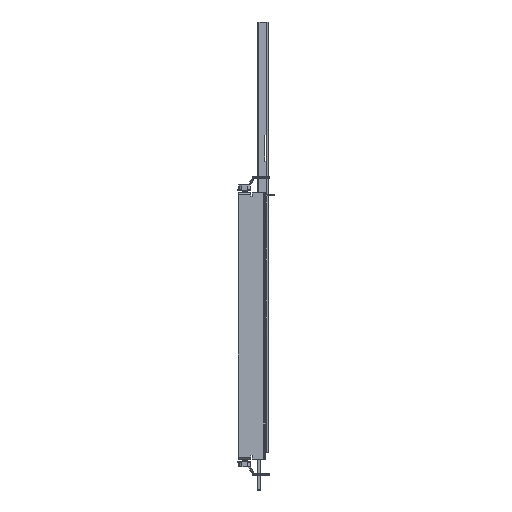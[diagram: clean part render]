
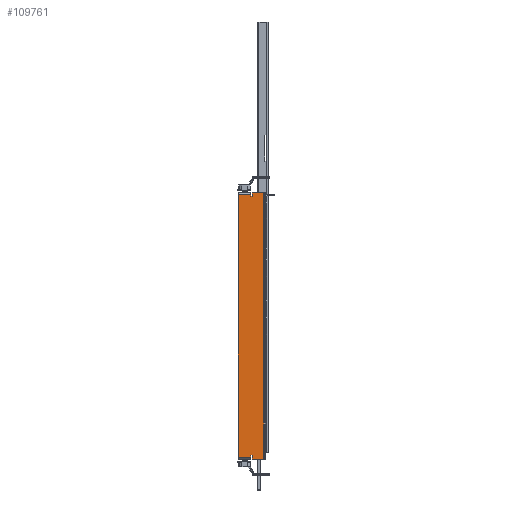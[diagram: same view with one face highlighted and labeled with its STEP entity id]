
A CAD part, left-side view. The second image highlights one B-rep face of the part: STEP entity #109761.
In plain terms, the highlighted planar face has unit normal (-1, 0, 0) as drawn and (0, 0, 1) by its records, which use the part's own axes.
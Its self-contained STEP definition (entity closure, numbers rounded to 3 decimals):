
#108001=CARTESIAN_POINT(' ',(150.,2.1,0.));
#108002=VERTEX_POINT(' ',#108001);
#108016=CARTESIAN_POINT(' ',(150.,2.1,0.));
#108021=DIRECTION(' ',(-1.,0.,0.));
#108026=VECTOR(' ',#108021,1.);
#108031=LINE('',#108016,#108026);
#108036=CARTESIAN_POINT(' ',(-150.,2.1,0.));
#108037=VERTEX_POINT(' ',#108036);
#108041=EDGE_CURVE(' ',#108002,#108037,#108031,.T.);
#108186=CARTESIAN_POINT(' ',(150.,15.,0.));
#108187=VERTEX_POINT(' ',#108186);
#108201=CARTESIAN_POINT(' ',(150.,15.,0.));
#108206=DIRECTION(' ',(0.,-1.,0.));
#108211=VECTOR(' ',#108206,1.);
#108216=LINE('',#108201,#108211);
#108221=EDGE_CURVE(' ',#108187,#108002,#108216,.T.);
#108761=CARTESIAN_POINT(' ',(-150.,15.,0.));
#108766=DIRECTION(' ',(0.,-1.,0.));
#108771=VECTOR(' ',#108766,1.);
#108776=LINE('',#108761,#108771);
#108781=CARTESIAN_POINT(' ',(-150.,15.,0.));
#108782=VERTEX_POINT(' ',#108781);
#108786=EDGE_CURVE(' ',#108782,#108037,#108776,.T.);
#109401=DIRECTION(' ',(-0.,0.,1.));
#109406=CARTESIAN_POINT(' ',(-150.,2.1,0.));
#109411=DIRECTION(' ',(1.,-0.,0.));
#109416=AXIS2_PLACEMENT_3D(' ',#109406,#109401,#109411);
#109421=PLANE('NONE',#109416);
#109426=CARTESIAN_POINT(' ',(147.9,30.5,0.));
#109431=DIRECTION(' ',(0.,-1.,0.));
#109436=VECTOR(' ',#109431,1.);
#109441=LINE('',#109426,#109436);
#109446=CARTESIAN_POINT(' ',(147.9,30.5,0.));
#109447=VERTEX_POINT(' ',#109446);
#109451=CARTESIAN_POINT(' ',(147.9,16.5,0.));
#109452=VERTEX_POINT(' ',#109451);
#109456=EDGE_CURVE(' ',#109447,#109452,#109441,.T.);
#109461=ORIENTED_EDGE(' ',*,*,#109456,.F.);
#109466=CARTESIAN_POINT(' ',(147.9,30.5,0.));
#109471=DIRECTION(' ',(-1.,0.,0.));
#109476=VECTOR(' ',#109471,1.);
#109481=LINE('',#109466,#109476);
#109486=CARTESIAN_POINT(' ',(-147.9,30.5,0.));
#109487=VERTEX_POINT(' ',#109486);
#109491=EDGE_CURVE(' ',#109447,#109487,#109481,.T.);
#109496=ORIENTED_EDGE(' ',*,*,#109491,.T.);
#109501=CARTESIAN_POINT(' ',(-147.9,16.5,0.));
#109506=DIRECTION(' ',(0.,1.,0.));
#109511=VECTOR(' ',#109506,1.);
#109516=LINE('',#109501,#109511);
#109521=CARTESIAN_POINT(' ',(-147.9,16.5,0.));
#109522=VERTEX_POINT(' ',#109521);
#109526=EDGE_CURVE(' ',#109522,#109487,#109516,.T.);
#109531=ORIENTED_EDGE(' ',*,*,#109526,.F.);
#109536=CARTESIAN_POINT(' ',(-146.,16.5,0.));
#109541=DIRECTION(' ',(-1.,0.,0.));
#109546=VECTOR(' ',#109541,1.);
#109551=LINE('',#109536,#109546);
#109556=CARTESIAN_POINT(' ',(-146.,16.5,0.));
#109557=VERTEX_POINT(' ',#109556);
#109561=EDGE_CURVE(' ',#109557,#109522,#109551,.T.);
#109566=ORIENTED_EDGE(' ',*,*,#109561,.F.);
#109571=CARTESIAN_POINT(' ',(-146.,15.,0.));
#109576=DIRECTION(' ',(0.,1.,0.));
#109581=VECTOR(' ',#109576,1.);
#109586=LINE('',#109571,#109581);
#109591=CARTESIAN_POINT(' ',(-146.,15.,0.));
#109592=VERTEX_POINT(' ',#109591);
#109596=EDGE_CURVE(' ',#109592,#109557,#109586,.T.);
#109601=ORIENTED_EDGE(' ',*,*,#109596,.F.);
#109606=CARTESIAN_POINT(' ',(-150.,15.,0.));
#109611=DIRECTION(' ',(1.,0.,0.));
#109616=VECTOR(' ',#109611,1.);
#109621=LINE('',#109606,#109616);
#109626=EDGE_CURVE(' ',#108782,#109592,#109621,.T.);
#109631=ORIENTED_EDGE(' ',*,*,#109626,.F.);
#109636=ORIENTED_EDGE(' ',*,*,#108786,.T.);
#109641=ORIENTED_EDGE(' ',*,*,#108041,.F.);
#109646=ORIENTED_EDGE(' ',*,*,#108221,.F.);
#109651=CARTESIAN_POINT(' ',(150.,15.,0.));
#109656=DIRECTION(' ',(-1.,0.,0.));
#109661=VECTOR(' ',#109656,1.);
#109666=LINE('',#109651,#109661);
#109671=CARTESIAN_POINT(' ',(146.,15.,0.));
#109672=VERTEX_POINT(' ',#109671);
#109676=EDGE_CURVE(' ',#108187,#109672,#109666,.T.);
#109681=ORIENTED_EDGE(' ',*,*,#109676,.T.);
#109686=CARTESIAN_POINT(' ',(146.,15.,0.));
#109691=DIRECTION(' ',(0.,1.,0.));
#109696=VECTOR(' ',#109691,1.);
#109701=LINE('',#109686,#109696);
#109706=CARTESIAN_POINT(' ',(146.,16.5,0.));
#109707=VERTEX_POINT(' ',#109706);
#109711=EDGE_CURVE(' ',#109672,#109707,#109701,.T.);
#109716=ORIENTED_EDGE(' ',*,*,#109711,.T.);
#109721=CARTESIAN_POINT(' ',(146.,16.5,0.));
#109726=DIRECTION(' ',(1.,0.,0.));
#109731=VECTOR(' ',#109726,1.);
#109736=LINE('',#109721,#109731);
#109741=EDGE_CURVE(' ',#109707,#109452,#109736,.T.);
#109746=ORIENTED_EDGE(' ',*,*,#109741,.T.);
#109751=EDGE_LOOP(' ',(#109461,#109496,#109531,#109566,#109601,#109631,#109636,#109641,#109646,#109681,#109716,#109746));
#109756=FACE_OUTER_BOUND(' ',#109751,.T.);
#109761=ADVANCED_FACE('NONE',(#109756),#109421,.T.);
